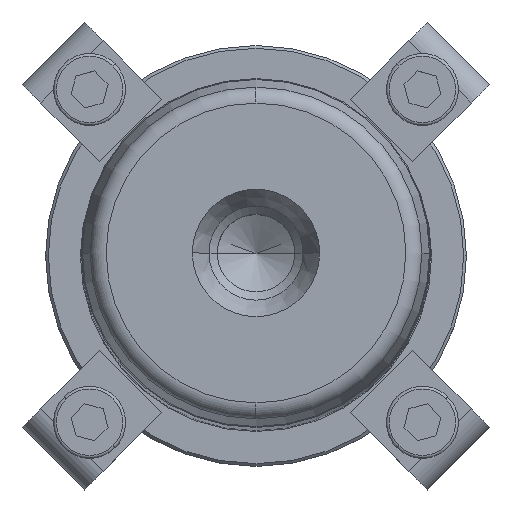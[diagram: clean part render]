
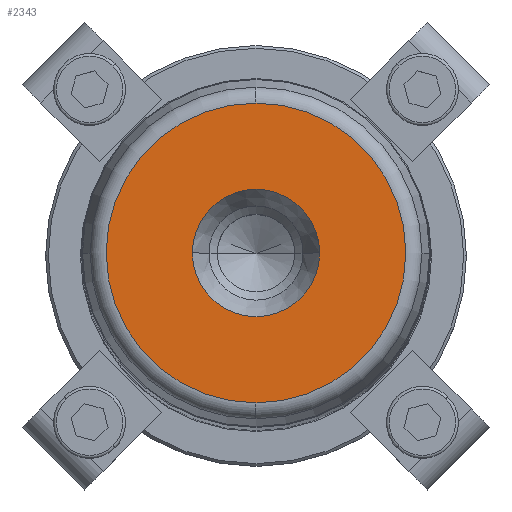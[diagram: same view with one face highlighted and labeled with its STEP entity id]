
A CAD part, top view. The second image highlights one B-rep face of the part: STEP entity #2343.
In plain terms, the highlighted planar face has unit normal (0, 0, 1).
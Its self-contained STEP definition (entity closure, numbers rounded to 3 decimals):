
#431=CARTESIAN_POINT('',(11.5,0.,315.0));
#432=VERTEX_POINT('',#431);
#439=CARTESIAN_POINT('',(-11.5,0.,315.0));
#440=VERTEX_POINT('',#439);
#441=CARTESIAN_POINT('',(0.0,0.,315.0));
#442=DIRECTION('',(0.0,0.0,1.0));
#443=DIRECTION('',(1.0,0.0,0.0));
#444=AXIS2_PLACEMENT_3D('',#441,#442,#443);
#445=CIRCLE('',#444,11.5);
#446=EDGE_CURVE('',#432,#440,#445,.T.);
#463=CARTESIAN_POINT('',(0.0,-27.054,315.));
#464=VERTEX_POINT('',#463);
#474=CARTESIAN_POINT('',(0.,27.054,315.));
#475=VERTEX_POINT('',#474);
#476=CARTESIAN_POINT('',(0.0,0.,315.));
#477=DIRECTION('',(0.0,0.0,1.0));
#478=DIRECTION('',(1.0,0.0,0.0));
#479=AXIS2_PLACEMENT_3D('',#476,#477,#478);
#480=CIRCLE('',#479,27.054);
#481=EDGE_CURVE('',#475,#464,#480,.T.);
#2304=CARTESIAN_POINT('',(27.054,0.,315.));
#2305=VERTEX_POINT('',#2304);
#2306=CARTESIAN_POINT('',(0.0,0.,315.));
#2307=DIRECTION('',(0.0,0.0,1.0));
#2308=DIRECTION('',(1.0,0.0,0.0));
#2309=AXIS2_PLACEMENT_3D('',#2306,#2307,#2308);
#2310=CIRCLE('',#2309,27.054);
#2311=EDGE_CURVE('',#2305,#475,#2310,.T.);
#2313=CARTESIAN_POINT('',(0.0,0.,315.));
#2314=DIRECTION('',(0.0,0.0,1.0));
#2315=DIRECTION('',(1.0,0.0,0.0));
#2316=AXIS2_PLACEMENT_3D('',#2313,#2314,#2315);
#2317=CIRCLE('',#2316,27.054);
#2318=EDGE_CURVE('',#464,#2305,#2317,.T.);
#2323=CARTESIAN_POINT('',(19.277,0.,315.0));
#2324=DIRECTION('',(0.0,0.0,1.0));
#2325=DIRECTION('',(0.0,-1.0,0.0));
#2326=AXIS2_PLACEMENT_3D('',#2323,#2324,#2325);
#2327=PLANE('',#2326);
#2328=ORIENTED_EDGE('',*,*,#2311,.T.);
#2329=ORIENTED_EDGE('',*,*,#481,.T.);
#2330=ORIENTED_EDGE('',*,*,#2318,.T.);
#2331=EDGE_LOOP('',(#2328,#2329,#2330));
#2332=FACE_OUTER_BOUND('',#2331,.T.);
#2333=ORIENTED_EDGE('',*,*,#446,.F.);
#2334=CARTESIAN_POINT('',(0.0,0.,315.0));
#2335=DIRECTION('',(0.0,0.0,1.0));
#2336=DIRECTION('',(1.0,0.0,0.0));
#2337=AXIS2_PLACEMENT_3D('',#2334,#2335,#2336);
#2338=CIRCLE('',#2337,11.5);
#2339=EDGE_CURVE('',#440,#432,#2338,.T.);
#2340=ORIENTED_EDGE('',*,*,#2339,.F.);
#2341=EDGE_LOOP('',(#2333,#2340));
#2342=FACE_BOUND('',#2341,.T.);
#2343=ADVANCED_FACE('',(#2332,#2342),#2327,.T.);
